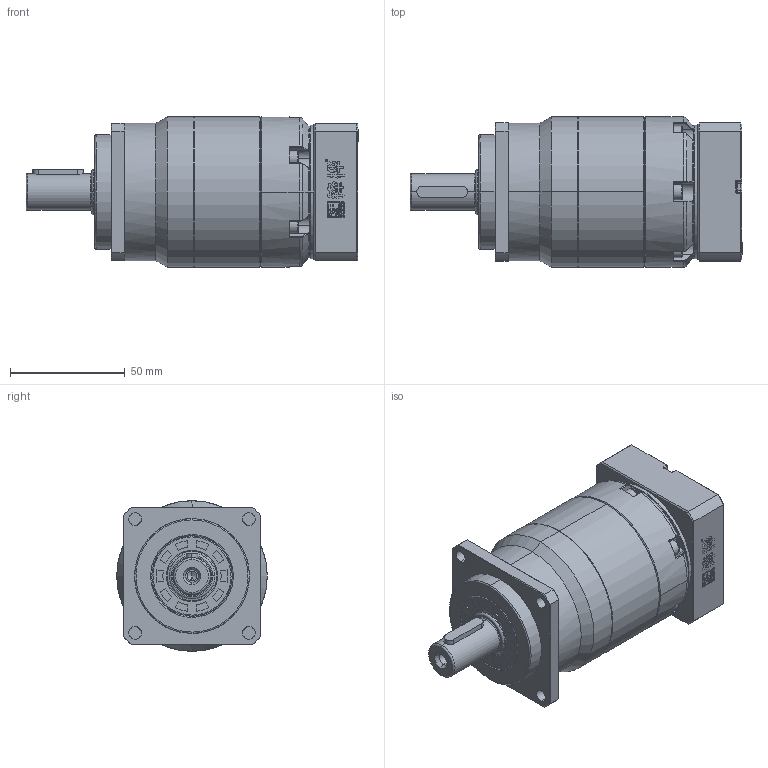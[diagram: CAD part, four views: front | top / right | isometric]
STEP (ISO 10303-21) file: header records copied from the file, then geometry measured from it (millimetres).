
FILE_DESCRIPTION (( 'STEP AP214' ), '1' );
FILE_NAME ('VRB060-L2-S2-P1 14-50-70-M5.STEP', '2021-04-24T06:37:36', ( 'User' ), ( 'china' ), 'SwSTEP 2.0', 'SolidWorks 2016', '' );
FILE_SCHEMA (( 'AUTOMOTIVE_DESIGN' ));
Length unit declared in the file: millimetre
Products named in the file (13): 输入太阳齿轮060D-14; hex socket set screws with cone point gb_GB_FASTENER_SCREWS_HSCP M10X10-N; hexagon socket head cap screws gb_GB_FASTENER_SCREWS_HSHCS M4X16-N_2; hexagon socket head cap screws gb_GB_FASTENER_SCREWS_HSHCS M4X25-N_2; VRB060D怀堤俴陎殤1; 蚐猾20355; A倰す瑩5-22; VRB060D齿圈; 3-输入端壳体VRB064D; 11-输入法兰VRB060D-50-70-M4; VRB060-L2-S2-P1 14-50-70-M5; VRB064D一级内齿圈; 坶踡遠18-37-12(1)
Assembly tree (20 placements, depth 2):
  VRB060-L2-S2-P1 14-50-70-M5
    11-输入法兰VRB060D-50-70-M4
    3-输入端壳体VRB064D
    VRB060D齿圈
    A倰す瑩5-22
    蚐猾20355
    VRB060D怀堤俴陎殤1
    hexagon socket head cap screws gb_GB_FASTENER_SCREWS_HSHCS M4X25-N_2  x6
    hexagon socket head cap screws gb_GB_FASTENER_SCREWS_HSHCS M4X16-N_2  x4
    hex socket set screws with cone point gb_GB_FASTENER_SCREWS_HSCP M10X10-N
    输入太阳齿轮060D-14
    坶踡遠18-37-12(1)
    VRB064D一级内齿圈
Bounding box: 144.5 x 65.5 x 65.5 mm (x, y, z)
Volume: 335498.2 mm3; surface area: 80440.3 mm2
Topology: 21 solids, 22 shells, 1505 faces, 3760 edges, 2323 vertices
Faces by surface type: plane 603, bspline 360, cylinder 313, cone 217, torus 12
Entity records: 63569 total; most frequent: CARTESIAN_POINT 19221, ORIENTED_EDGE 6532, DIRECTION 5506, EDGE_CURVE 3266, VERTEX_POINT 2059, AXIS2_PLACEMENT_3D 1950, VECTOR 1606, LINE 1606
